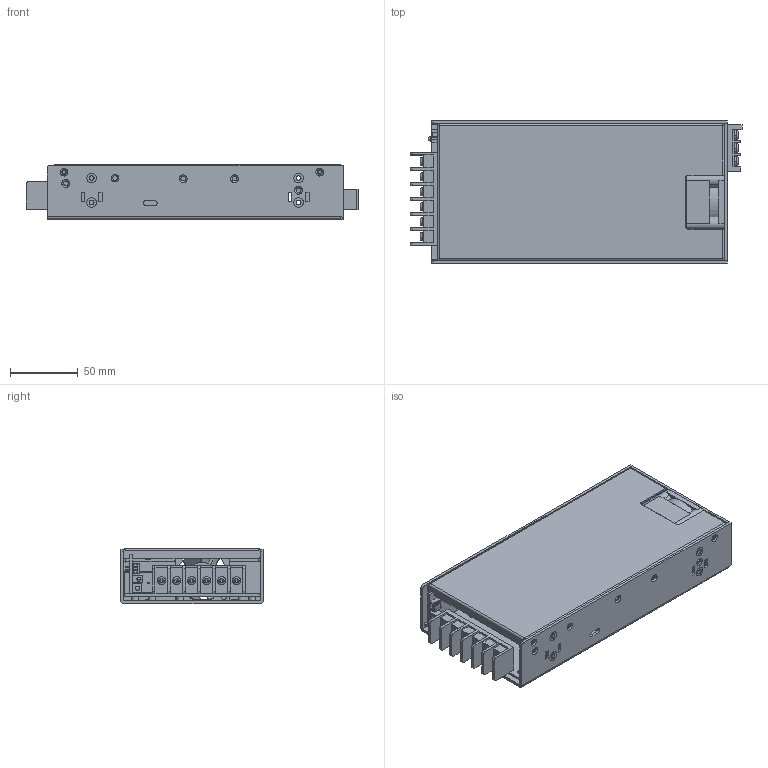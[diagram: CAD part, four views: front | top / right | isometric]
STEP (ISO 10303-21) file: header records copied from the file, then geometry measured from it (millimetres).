
FILE_DESCRIPTION(('Creo Elements/Direct Modeling STEP Export'),'2;1');
FILE_NAME('HRP-450.stp','2024-04-11T10:37:51',(''),(''),'PTC Creo Elements/Direct Modeling STEP processor for AP214 (Solid Model)','PTC Creo Elements/Direct Modeling 19.0E 27-Jun-2016 (C) Parametric Technology GmbH','');
FILE_SCHEMA(('AUTOMOTIVE_DESIGN { 1 0 10303 214 1 1 1 1 }'));
Length unit declared in the file: millimetre
Products named in the file (24): M3-7L; ¤U»_; p2; ff.2.2.2.1; a1; BASE; cover; ºÝ¤l2; ºÝ¤l1; VR; p1; 1.2; 1.2.1; p2.1; JS100107; pcb2; PCB; ¤pLED; pcb-2; FAN; HRP-450; HRP.G-450.stp
Assembly tree (34 placements, depth 6):
  HRP.G-450.stp
    HRP-450
      PCB
        FAN
        pcb-2
          ¤pLED
          PCB
          pcb2
          JS100107
            p2.1
            1.2.1
            p2
            1.2
            p1
          VR
        ºÝ¤l1
        ºÝ¤l2
      cover
      BASE
        a1
          ff.2.2.2.1  x8
        M3-7L  x5
        p2
        ¤U»_
Bounding box: 244.45 x 105 x 40.5 mm (x, y, z)
Volume: 190826.2 mm3; surface area: 207128 mm2
Topology: 27 solids, 27 shells, 1110 faces, 2833 edges, 1819 vertices
Faces by surface type: plane 708, cylinder 306, torus 58, cone 38
Entity records: 31040 total; most frequent: CARTESIAN_POINT 7020, ORIENTED_EDGE 5046, DIRECTION 4342, EDGE_CURVE 2523, VERTEX_POINT 1617, VECTOR 1584, LINE 1584, AXIS2_PLACEMENT_3D 1379
